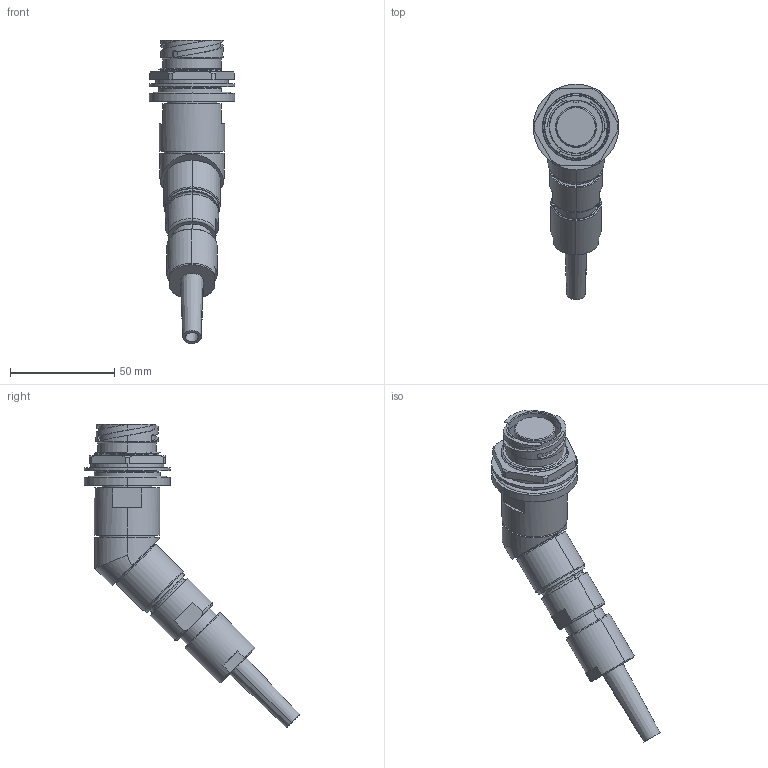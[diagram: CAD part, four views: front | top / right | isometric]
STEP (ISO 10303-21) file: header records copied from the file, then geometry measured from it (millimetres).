
FILE_DESCRIPTION (( 'STEP AP214' ), '1' );
FILE_NAME ('QLINK45-RJBX-17XX-SXXX-RA.STEP', '2025-12-17T16:21:22', ( '' ), ( '' ), 'SwSTEP 2.0', 'SolidWorks 2024', '' );
FILE_SCHEMA (( 'AUTOMOTIVE_DESIGN' ));
Length unit declared in the file: millimetre
Products named in the file (1): QLINK45-RJBX-17XX-SXXX-RA
Bounding box: 41.02 x 103.09 x 145.15 mm (x, y, z)
Volume: 85558.2 mm3; surface area: 26376.2 mm2
Topology: 2 solids, 2 shells, 277 faces, 700 edges, 446 vertices
Faces by surface type: cylinder 87, plane 61, cone 56, bspline 50, torus 23
Entity records: 22092 total; most frequent: CARTESIAN_POINT 15959, ORIENTED_EDGE 1400, DIRECTION 1158, EDGE_CURVE 700, AXIS2_PLACEMENT_3D 483, VERTEX_POINT 446, EDGE_LOOP 306, FACE_OUTER_BOUND 277
